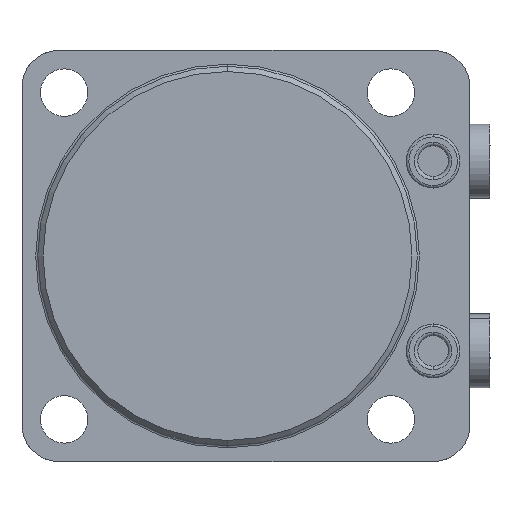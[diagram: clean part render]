
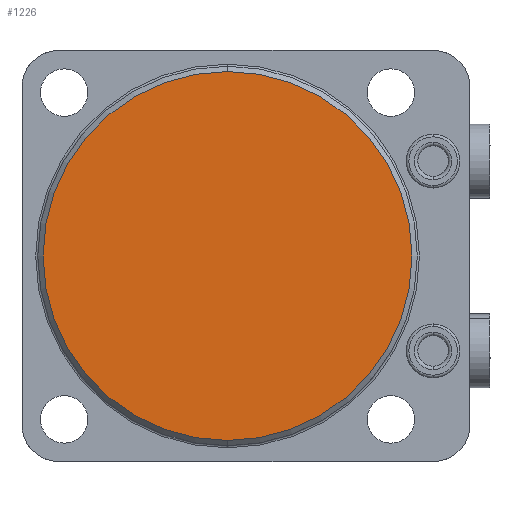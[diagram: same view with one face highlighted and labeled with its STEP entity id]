
A CAD part, front view. The second image highlights one B-rep face of the part: STEP entity #1226.
In plain terms, the highlighted planar face has unit normal (0, -1, 0).
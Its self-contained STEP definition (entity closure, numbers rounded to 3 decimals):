
#651=PLANE('',#3574);
#1226=ADVANCED_FACE('',(#1397),#651,.F.);
#1397=FACE_OUTER_BOUND('',#1578,.T.);
#1578=EDGE_LOOP('',(#2141,#2142));
#2141=ORIENTED_EDGE('',*,*,#2993,.T.);
#2142=ORIENTED_EDGE('',*,*,#2934,.T.);
#2626=VERTEX_POINT('',#5235);
#2627=VERTEX_POINT('',#5236);
#2934=EDGE_CURVE('',#2626,#2627,#3228,.T.);
#2993=EDGE_CURVE('',#2627,#2626,#3249,.T.);
#3228=CIRCLE('',#3541,35.);
#3249=CIRCLE('',#3573,35.);
#3541=AXIS2_PLACEMENT_3D('',#5234,#4266,#4267);
#3573=AXIS2_PLACEMENT_3D('',#5430,#4348,#4349);
#3574=AXIS2_PLACEMENT_3D('',#5431,#4350,#4351);
#4266=DIRECTION('',(0.,-1.,0.));
#4267=DIRECTION('',(0.,0.,1.));
#4348=DIRECTION('',(0.,-1.,0.));
#4349=DIRECTION('',(0.,0.,1.));
#4350=DIRECTION('',(0.,1.,0.));
#4351=DIRECTION('',(0.,0.,-1.));
#5234=CARTESIAN_POINT('',(0.,-67.,0.));
#5235=CARTESIAN_POINT('',(0.,-67.,-35.));
#5236=CARTESIAN_POINT('',(0.,-67.,35.));
#5430=CARTESIAN_POINT('',(0.,-67.,0.));
#5431=CARTESIAN_POINT('',(0.,-67.,0.));
